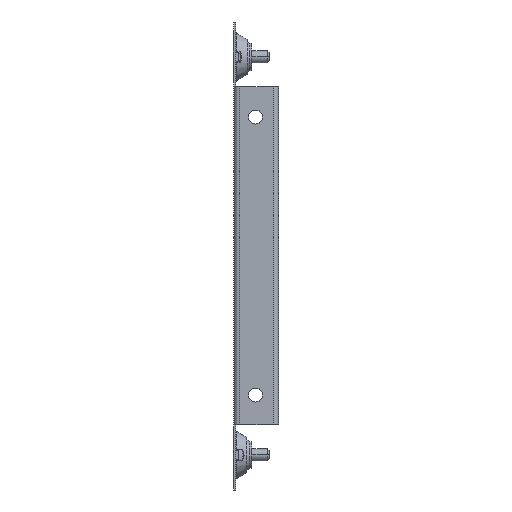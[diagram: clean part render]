
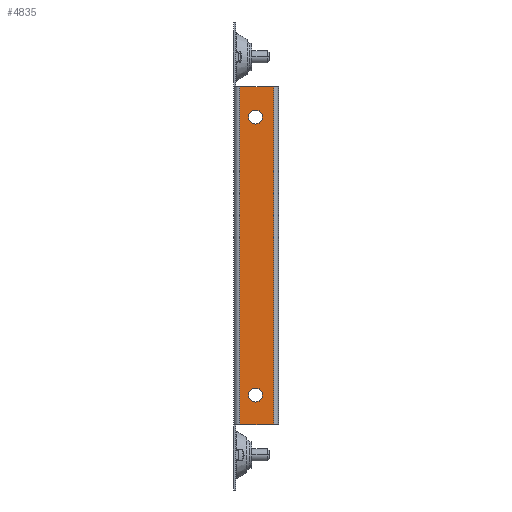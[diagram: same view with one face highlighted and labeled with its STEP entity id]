
A CAD part, front view. The second image highlights one B-rep face of the part: STEP entity #4835.
In plain terms, the highlighted planar face has unit normal (0, -1, 0).
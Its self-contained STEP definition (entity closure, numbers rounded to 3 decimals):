
#614=DIRECTION('',(0.,0.,-1.));
#615=VECTOR('',#614,169.);
#616=CARTESIAN_POINT('',(3.,0.,201.5));
#617=LINE('',#616,#615);
#635=DIRECTION('',(-1.,0.,0.));
#636=VECTOR('',#635,17.);
#637=CARTESIAN_POINT('',(20.,0.,201.5));
#638=LINE('',#637,#636);
#920=DIRECTION('',(-1.,0.,0.));
#921=VECTOR('',#920,17.);
#922=CARTESIAN_POINT('',(20.,0.,32.5));
#923=LINE('',#922,#921);
#924=CARTESIAN_POINT('',(11.,0.,47.5));
#925=DIRECTION('',(0.,-1.,0.));
#926=DIRECTION('',(1.,0.,0.));
#927=AXIS2_PLACEMENT_3D('',#924,#925,#926);
#929=CARTESIAN_POINT('',(11.,0.,47.5));
#930=DIRECTION('',(0.,-1.,0.));
#931=DIRECTION('',(-1.,0.,0.));
#932=AXIS2_PLACEMENT_3D('',#929,#930,#931);
#934=CARTESIAN_POINT('',(11.,0.,186.5));
#935=DIRECTION('',(0.,-1.,0.));
#936=DIRECTION('',(1.,0.,0.));
#937=AXIS2_PLACEMENT_3D('',#934,#935,#936);
#939=CARTESIAN_POINT('',(11.,0.,186.5));
#940=DIRECTION('',(0.,-1.,0.));
#941=DIRECTION('',(-1.,0.,0.));
#942=AXIS2_PLACEMENT_3D('',#939,#940,#941);
#948=DIRECTION('',(0.,0.,1.));
#949=VECTOR('',#948,169.);
#950=CARTESIAN_POINT('',(20.,0.,32.5));
#951=LINE('',#950,#949);
#3144=CARTESIAN_POINT('',(3.,0.,32.5));
#3145=VERTEX_POINT('',#3144);
#3148=CARTESIAN_POINT('',(3.,0.,201.5));
#3149=VERTEX_POINT('',#3148);
#3154=CARTESIAN_POINT('',(20.,0.,201.5));
#3155=VERTEX_POINT('',#3154);
#3166=CARTESIAN_POINT('',(20.,0.,32.5));
#3167=VERTEX_POINT('',#3166);
#3168=CARTESIAN_POINT('',(14.5,0.,47.5));
#3169=CARTESIAN_POINT('',(7.5,0.,47.5));
#3170=VERTEX_POINT('',#3168);
#3171=VERTEX_POINT('',#3169);
#3172=CARTESIAN_POINT('',(14.5,0.,186.5));
#3173=CARTESIAN_POINT('',(7.5,0.,186.5));
#3174=VERTEX_POINT('',#3172);
#3175=VERTEX_POINT('',#3173);
#4811=CARTESIAN_POINT('',(22.5,0.,0.));
#4812=DIRECTION('',(0.,-1.,0.));
#4813=DIRECTION('',(-1.,0.,0.));
#4814=AXIS2_PLACEMENT_3D('',#4811,#4812,#4813);
#4815=PLANE('',#4814);
#4816=ORIENTED_EDGE('',*,*,#4405,.F.);
#4818=ORIENTED_EDGE('',*,*,#4817,.F.);
#4819=ORIENTED_EDGE('',*,*,#4802,.T.);
#4820=ORIENTED_EDGE('',*,*,#4382,.F.);
#4821=EDGE_LOOP('',(#4816,#4818,#4819,#4820));
#4822=FACE_OUTER_BOUND('',#4821,.F.);
#4824=ORIENTED_EDGE('',*,*,#4823,.T.);
#4826=ORIENTED_EDGE('',*,*,#4825,.T.);
#4827=EDGE_LOOP('',(#4824,#4826));
#4828=FACE_BOUND('',#4827,.F.);
#4830=ORIENTED_EDGE('',*,*,#4829,.T.);
#4832=ORIENTED_EDGE('',*,*,#4831,.T.);
#4833=EDGE_LOOP('',(#4830,#4832));
#4834=FACE_BOUND('',#4833,.F.);
#928=CIRCLE('',#927,3.5);
#933=CIRCLE('',#932,3.5);
#938=CIRCLE('',#937,3.5);
#943=CIRCLE('',#942,3.5);
#4382=EDGE_CURVE('',#3149,#3145,#617,.T.);
#4405=EDGE_CURVE('',#3155,#3149,#638,.T.);
#4802=EDGE_CURVE('',#3167,#3145,#923,.T.);
#4817=EDGE_CURVE('',#3167,#3155,#951,.T.);
#4823=EDGE_CURVE('',#3170,#3171,#928,.T.);
#4825=EDGE_CURVE('',#3171,#3170,#933,.T.);
#4829=EDGE_CURVE('',#3174,#3175,#938,.T.);
#4831=EDGE_CURVE('',#3175,#3174,#943,.T.);
#4835=ADVANCED_FACE('',(#4822,#4828,#4834),#4815,.T.);
